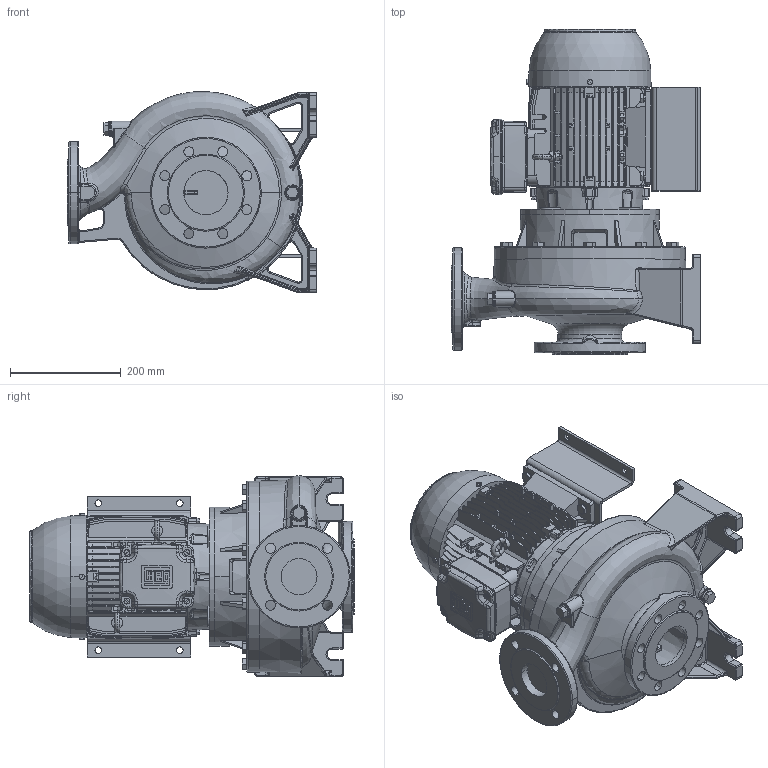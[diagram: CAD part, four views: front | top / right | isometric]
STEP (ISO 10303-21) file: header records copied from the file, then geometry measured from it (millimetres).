
FILE_DESCRIPTION (( 'STEP AP214' ), '1' );
FILE_NAME ('3LS4 65-250_4_(112M)_W21.STEP', '2026-10-05T01:33:07', ( '' ), ( '' ), 'SwSTEP 2.0', 'SolidWorks 2024', '' );
FILE_SCHEMA (( 'AUTOMOTIVE_DESIGN' ));
Length unit declared in the file: inch
Products named in the file (3): 3LS4 65-250_4_(112M)_W21; 3SF4_65-250_4; 112M ALIE3_W21T_B35
Assembly tree (2 placements, depth 2):
  3LS4 65-250_4_(112M)_W21
    3SF4_65-250_4
    112M ALIE3_W21T_B35
Bounding box: 450 x 586.1 x 362.52 mm (x, y, z)
Volume: 26745449.7 mm3; surface area: 1851403.3 mm2
Topology: 15 solids, 17 shells, 4517 faces, 11916 edges, 7674 vertices
Faces by surface type: plane 2458, cylinder 802, bspline 606, cone 314, torus 306, sphere 31
Entity records: 198872 total; most frequent: CARTESIAN_POINT 94420, ORIENTED_EDGE 23802, DIRECTION 18424, EDGE_CURVE 11901, VERTEX_POINT 7674, LINE 6524, VECTOR 6524, AXIS2_PLACEMENT_3D 5950
